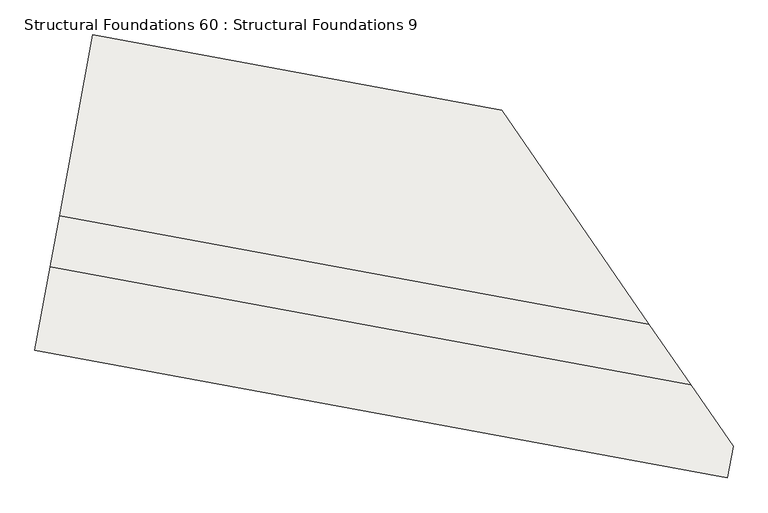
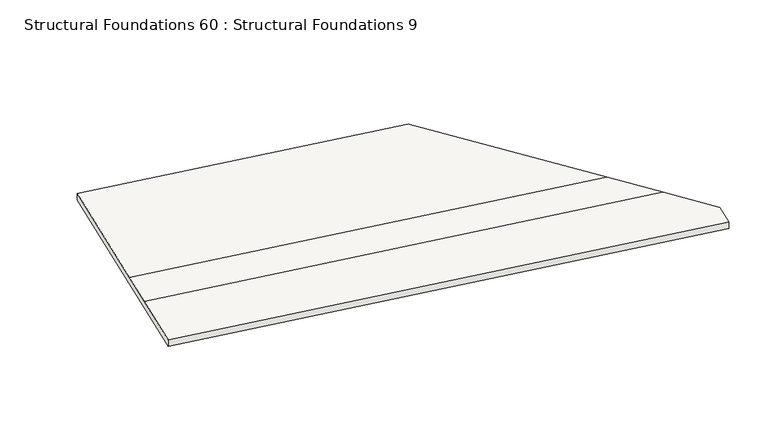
"""IFC4 building model written with IfcOpenShell, lengths in millimetres: slab geometry, Structural Foundations 60 : Structural Foundations 9."""

from ifc_helpers import new_model, si_unit, origin, place, context, project, spatial, faceted_brep, source, transform, mapped, element, save


def structural_foundations_60_structural_foundations_9_92716e32(model_context):
    return source(origin(), model_context, "Body", "Brep", [
        faceted_brep([(-357718.8127137, -452052.8366185, 634397.0), (-357718.8127137, -452052.8366185, 634297.0), (-357657.6036982, -451720.6438551, 634297.0), (-357657.6036982, -451720.6438551, 634397.0), (-364902.0600963, -449814.118896, 634339.0), (-364802.3961748, -449273.2241728, 634339.0), (-364449.0422707, -447355.5065145, 634339.0), (-364449.0422707, -447355.5065145, 634239.0), (-365065.1465138, -450699.2193545, 634239.0), (-365065.1465138, -450699.2193545, 634339.0), (-358549.8665332, -450425.2997927, 634388.3643127), (-360114.2333382, -448154.227668, 634373.2237264), (-358108.634871, -451065.8585959, 634392.6347345), (-360114.2333382, -448154.227668, 634273.2237264)], [[[0, 1, 2, 3]], [[4, 5, 6, 7, 8, 9]], [[6, 5, 10, 11]], [[5, 4, 12, 10]], [[4, 9, 0, 3, 12]], [[3, 2, 13, 11, 10, 12]], [[1, 0, 9, 8]], [[8, 7, 13, 2, 1]], [[7, 6, 11, 13]]]),
    ])


if __name__ == "__main__":
    model = new_model("IFC4")
    model_context = context("Model", 3, world=origin())
    ifc_project = project(units=[si_unit("LENGTHUNIT", "METRE", prefix="MILLI")], contexts=[model_context])
    site = spatial("IfcSite", under=ifc_project)
    building = spatial("IfcBuilding", under=site)
    placement = place(None, origin())
    structural_foundations_60_structural_foundations_9_shape = structural_foundations_60_structural_foundations_9_92716e32(model_context)
    element("IfcSlab", 1, ObjectType="Structural Foundations 60 : Structural Foundations 9", at=placement, inside=building, context=model_context, shape_type="MappedRepresentation", body=[
        mapped(structural_foundations_60_structural_foundations_9_shape, transform((0.0, 0.0, 0.0), x_axis=(1.0, 0.0, 0.0), y_axis=(0.0, 1.0, 0.0), z_axis=(0.0, 0.0, 1.0))),
    ])
    save(model, "model.ifc")
